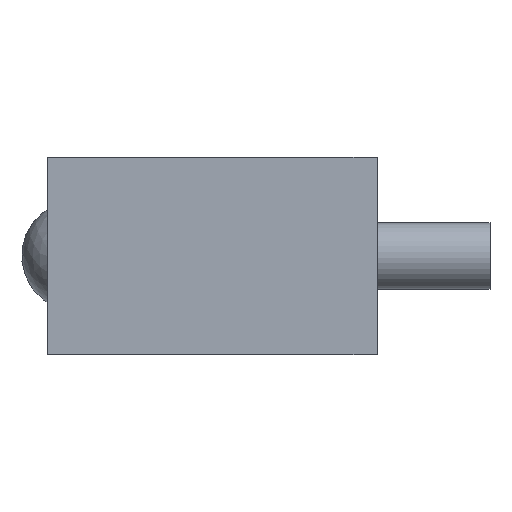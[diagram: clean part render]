
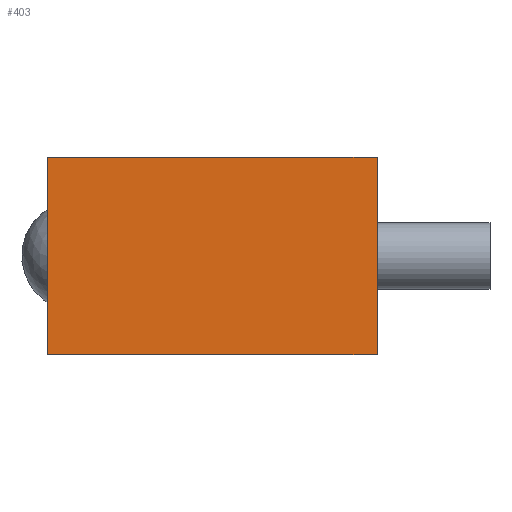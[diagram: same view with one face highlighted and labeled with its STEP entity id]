
A CAD part, left-side view. The second image highlights one B-rep face of the part: STEP entity #403.
In plain terms, the highlighted planar face has unit normal (-1, 0, 0).
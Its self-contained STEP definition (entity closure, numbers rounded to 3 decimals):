
#21=LINE('',#667,#37);
#27=LINE('',#682,#43);
#31=LINE('',#694,#47);
#33=LINE('',#697,#49);
#37=VECTOR('',#564,10.);
#43=VECTOR('',#574,10.);
#47=VECTOR('',#590,10.);
#49=VECTOR('',#594,10.);
#80=PLANE('',#475);
#108=FACE_OUTER_BOUND('',#154,.T.);
#154=EDGE_LOOP('',(#321,#322,#323,#324));
#202=VERTEX_POINT('',#665);
#203=VERTEX_POINT('',#666);
#209=VERTEX_POINT('',#679);
#210=VERTEX_POINT('',#681);
#236=EDGE_CURVE('',#202,#203,#21,.T.);
#243=EDGE_CURVE('',#209,#210,#27,.T.);
#249=EDGE_CURVE('',#210,#202,#31,.T.);
#251=EDGE_CURVE('',#203,#209,#33,.T.);
#321=ORIENTED_EDGE('',*,*,#243,.F.);
#322=ORIENTED_EDGE('',*,*,#251,.F.);
#323=ORIENTED_EDGE('',*,*,#236,.F.);
#324=ORIENTED_EDGE('',*,*,#249,.F.);
#403=ADVANCED_FACE('',(#108),#80,.T.);
#475=AXIS2_PLACEMENT_3D('',#696,#592,#593);
#564=DIRECTION('',(0.,0.,1.));
#574=DIRECTION('',(0.,0.,-1.));
#590=DIRECTION('',(0.,1.,0.));
#592=DIRECTION('center_axis',(-1.,0.,0.));
#593=DIRECTION('ref_axis',(0.,-1.,0.));
#594=DIRECTION('',(0.,-1.,0.));
#665=CARTESIAN_POINT('',(-150.,14.9,-8.9));
#666=CARTESIAN_POINT('',(-150.,14.9,8.9));
#667=CARTESIAN_POINT('',(-150.,14.9,0.));
#679=CARTESIAN_POINT('',(-150.,-14.9,8.9));
#681=CARTESIAN_POINT('',(-150.,-14.9,-8.9));
#682=CARTESIAN_POINT('',(-150.,-14.9,0.));
#694=CARTESIAN_POINT('',(-150.,14.9,-8.9));
#696=CARTESIAN_POINT('Origin',(-150.,14.9,0.));
#697=CARTESIAN_POINT('',(-150.,14.9,8.9));
